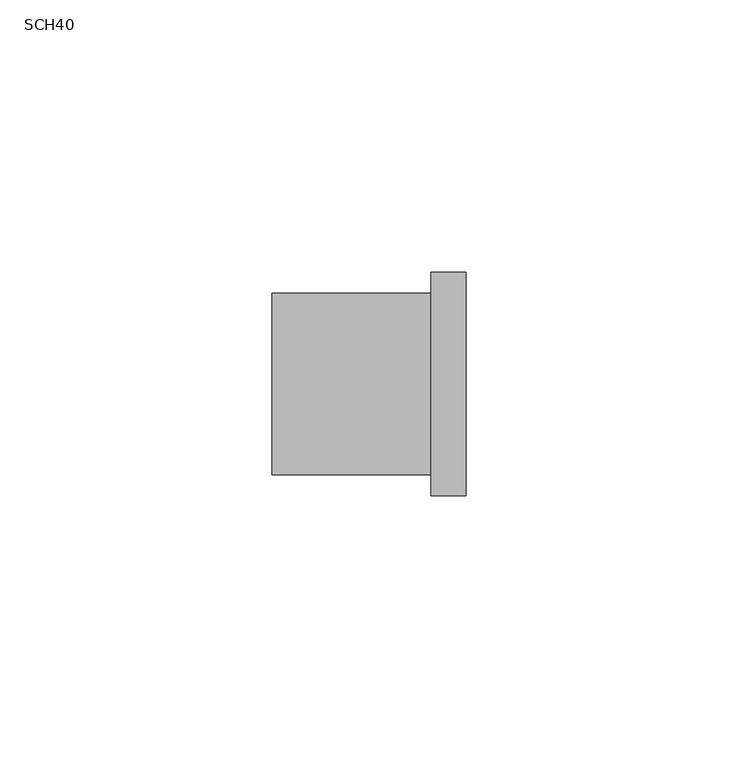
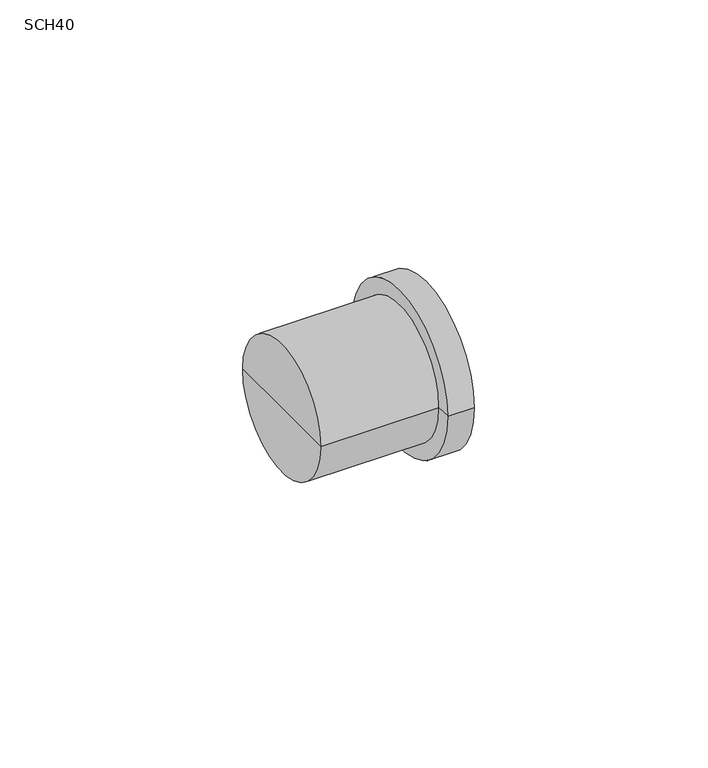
"""IFC4 building model written with IfcOpenShell, lengths in millimetres: pipe fitting geometry, AmancoWavin_Unionesdetubería_Ced-80ZNoUsarRReducciónBushing : SCH40."""

from ifc_helpers import new_model, si_unit, frame, origin, place, context, project, spatial, polyline, circle_curve, source, transform, mapped, element, save
from ifc_brep_helpers import plane_surface, cylinder_surface, revolved_surface, advanced_brep


def sch40_c5e482b5(model_context):
    return source(origin(), model_context, "Body", "AdvancedBrep", [
        advanced_brep(
        [(4.3599274, 0.0, 0.0), (4.3599274, 16.7, 0.0), (4.3599274, -16.7, 0.0), (17.8536774, -10.315, 0.0), (17.8536774, 10.315, 0.0), (17.8536774, 0.0, 0.0), (40.0786774, -10.315, 0.0), (40.0786774, 10.315, 0.0), (40.0786774, -20.574, 0.0), (40.0786774, 20.574, 0.0), (33.6016774, -20.574, 0.0), (33.6016774, 20.574, 0.0), (33.6016774, -16.7, 0.0), (33.6016774, 16.7, 0.0)],
        [
            (0, 1),
            (1, 2, circle_curve(frame((4.3599274, 0.0, 0.0), z_axis=(-1.0, 0.0, 0.0), x_axis=(0.0, 1.0, 0.0)), 16.7)),
            (2, 0),
            (2, 1, circle_curve(frame((4.3599274, 0.0, 0.0), z_axis=(-1.0, 0.0, 0.0), x_axis=(0.0, 1.0, 0.0)), 16.7)),
            (3, 4, circle_curve(frame((17.8536774, 0.0, 0.0), z_axis=(1.0, 0.0, 0.0), x_axis=(0.0, 1.0, 0.0)), 10.315)),
            (4, 5),
            (5, 3),
            (4, 3, circle_curve(frame((17.8536774, 0.0, 0.0), z_axis=(1.0, 0.0, 0.0), x_axis=(0.0, 1.0, 0.0)), 10.315)),
            (6, 7, circle_curve(frame((40.0786774, 0.0, 0.0), z_axis=(1.0, 0.0, 0.0), x_axis=(0.0, 1.0, 0.0)), 10.315)),
            (7, 4),
            (3, 6),
            (7, 6, circle_curve(frame((40.0786774, 0.0, 0.0), z_axis=(1.0, 0.0, 0.0), x_axis=(0.0, 1.0, 0.0)), 10.315)),
            (8, 9, circle_curve(frame((40.0786774, 0.0, 0.0), z_axis=(1.0, 0.0, 0.0), x_axis=(0.0, 1.0, 0.0)), 20.574)),
            (9, 7),
            (6, 8),
            (9, 8, circle_curve(frame((40.0786774, 0.0, 0.0), z_axis=(1.0, 0.0, 0.0), x_axis=(0.0, 1.0, 0.0)), 20.574)),
            (10, 11, circle_curve(frame((33.6016774, 0.0, 0.0), z_axis=(1.0, 0.0, 0.0), x_axis=(0.0, 1.0, 0.0)), 20.574)),
            (11, 9),
            (8, 10),
            (11, 10, circle_curve(frame((33.6016774, 0.0, 0.0), z_axis=(1.0, 0.0, 0.0), x_axis=(0.0, 1.0, 0.0)), 20.574)),
            (12, 13, circle_curve(frame((33.6016774, 0.0, 0.0), z_axis=(1.0, 0.0, 0.0), x_axis=(0.0, 1.0, 0.0)), 16.7)),
            (13, 11),
            (10, 12),
            (13, 12, circle_curve(frame((33.6016774, 0.0, 0.0), z_axis=(1.0, 0.0, 0.0), x_axis=(0.0, 1.0, 0.0)), 16.7)),
            (1, 13),
            (12, 2),
        ],
        [
            plane_surface(frame((4.3599274, 0.0, 0.0), z_axis=(-1.0, 0.0, 0.0), x_axis=(0.0, 1.0, 0.0))),
            plane_surface(frame((17.8536774, 0.0, 0.0), z_axis=(1.0, 0.0, 0.0), x_axis=(0.0, 1.0, 0.0))),
            revolved_surface(polyline([(17.853677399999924, 10.315, 0.0), (40.07867740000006, 10.315, 0.0)]), (2007.556875, 0.0, 0.0), (-1.0, 0.0, 0.0)),
            plane_surface(frame((40.0786774, 0.0, 0.0), z_axis=(1.0, 0.0, 0.0), x_axis=(0.0, 1.0, 0.0))),
            cylinder_surface(frame((2007.556875, 0.0, 0.0), z_axis=(-1.0, 0.0, 0.0), x_axis=(0.0, 1.0, 0.0)), 20.574),
            plane_surface(frame((33.6016774, 0.0, 0.0), z_axis=(-1.0, 0.0, 0.0), x_axis=(0.0, 1.0, 0.0))),
            cylinder_surface(frame((2007.556875, 0.0, 0.0), z_axis=(-1.0, 0.0, 0.0), x_axis=(0.0, 1.0, 0.0)), 16.7),
        ],
        [
            (0, [[1, 2, 3]]),
            (0, [[-3, 4, -1]]),
            (1, [[5, 6, 7]]),
            (1, [[8, -7, -6]]),
            (2, [[9, 10, -5, 11]]),
            (2, [[12, -11, -8, -10]]),
            (3, [[13, 14, -9, 15]]),
            (3, [[16, -15, -12, -14]]),
            (4, [[17, 18, -13, 19]]),
            (4, [[20, -19, -16, -18]]),
            (5, [[21, 22, -17, 23]]),
            (5, [[24, -23, -20, -22]]),
            (6, [[-2, 25, -21, 26]]),
            (6, [[-4, -26, -24, -25]]),
        ],
    ),
    ])


if __name__ == "__main__":
    model = new_model("IFC4")
    model_context = context("Model", 3, world=origin())
    ifc_project = project(units=[si_unit("LENGTHUNIT", "METRE", prefix="MILLI")], contexts=[model_context])
    site = spatial("IfcSite", under=ifc_project)
    building = spatial("IfcBuilding", under=site)
    placement = place(None, origin())
    sch40_shape = sch40_c5e482b5(model_context)
    element("IfcPipeFitting", 1, ObjectType="AmancoWavin_Unionesdetubería_Ced-80ZNoUsarRReducciónBushing : SCH40", at=placement, inside=building, context=model_context, shape_type="MappedRepresentation", body=[
        mapped(sch40_shape, transform((0.0, 0.0, 0.0), x_axis=(1.0, 0.0, 0.0), y_axis=(0.0, 1.0, 0.0), z_axis=(0.0, 0.0, 1.0))),
    ])
    save(model, "model.ifc")
